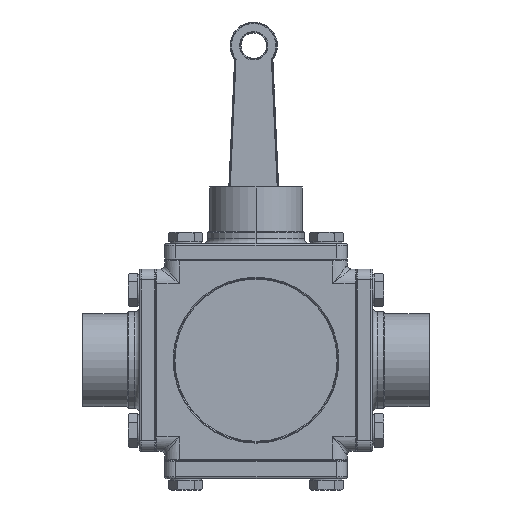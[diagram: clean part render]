
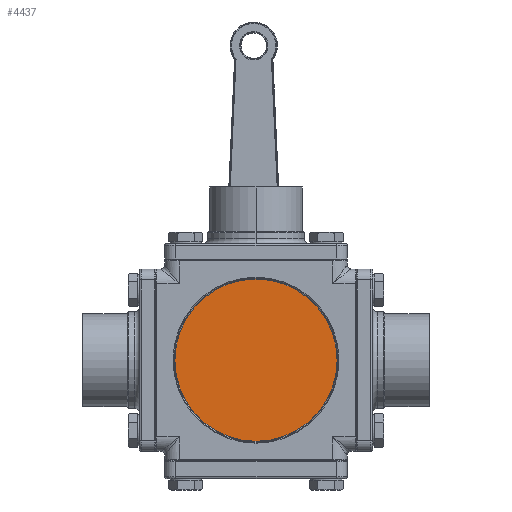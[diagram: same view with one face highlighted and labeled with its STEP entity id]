
A CAD part, front view. The second image highlights one B-rep face of the part: STEP entity #4437.
In plain terms, the highlighted planar face has unit normal (0, -1, 0).
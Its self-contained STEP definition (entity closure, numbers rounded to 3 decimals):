
#74 = DIRECTION ( 'NONE',  ( 0., -1., 0. ) ) ;
#768 = EDGE_CURVE ( 'NONE', #20288, #28615, #13357, .T. ) ;
#1868 = AXIS2_PLACEMENT_3D ( 'NONE', #10263, #4777, #17958 ) ;
#2612 = DIRECTION ( 'NONE',  ( 0., 0., -1. ) ) ;
#4437 = ADVANCED_FACE ( 'NONE', ( #9222 ), #25743, .T. ) ;
#4777 = DIRECTION ( 'NONE',  ( 0., -1., 0. ) ) ;
#6981 = CARTESIAN_POINT ( 'NONE',  ( 0., -48.5, 44.5 ) ) ;
#8098 = CARTESIAN_POINT ( 'NONE',  ( 0., -48.5, -44.5 ) ) ;
#8547 = DIRECTION ( 'NONE',  ( 0., 0., -1. ) ) ;
#8559 = ORIENTED_EDGE ( 'NONE', *, *, #768, .T. ) ;
#9222 = FACE_OUTER_BOUND ( 'NONE', #31342, .T. ) ;
#10263 = CARTESIAN_POINT ( 'NONE',  ( 0., -48.5, 0. ) ) ;
#11240 = DIRECTION ( 'NONE',  ( 0., -1., 0. ) ) ;
#12512 = CIRCLE ( 'NONE', #29825, 44.5 ) ;
#13357 = CIRCLE ( 'NONE', #1868, 44.5 ) ;
#17958 = DIRECTION ( 'NONE',  ( 0., 0., -1. ) ) ;
#19007 = ORIENTED_EDGE ( 'NONE', *, *, #30075, .T. ) ;
#20288 = VERTEX_POINT ( 'NONE', #6981 ) ;
#23278 = AXIS2_PLACEMENT_3D ( 'NONE', #27993, #74, #2612 ) ;
#25743 = PLANE ( 'NONE',  #23278 ) ;
#27993 = CARTESIAN_POINT ( 'NONE',  ( 0., -48.5, 0. ) ) ;
#28615 = VERTEX_POINT ( 'NONE', #8098 ) ;
#29131 = CARTESIAN_POINT ( 'NONE',  ( 0., -48.5, 0. ) ) ;
#29825 = AXIS2_PLACEMENT_3D ( 'NONE', #29131, #11240, #8547 ) ;
#30075 = EDGE_CURVE ( 'NONE', #28615, #20288, #12512, .T. ) ;
#31342 = EDGE_LOOP ( 'NONE', ( #19007, #8559 ) ) ;
